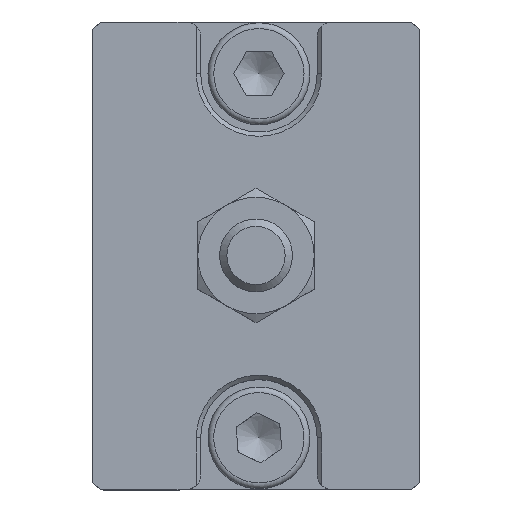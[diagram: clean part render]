
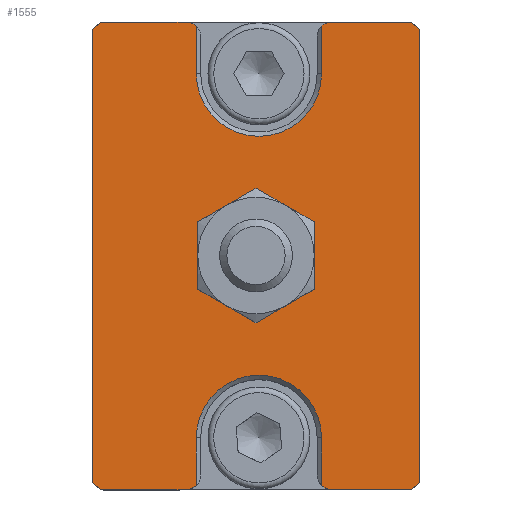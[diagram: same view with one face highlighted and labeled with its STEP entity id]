
A CAD part, top view. The second image highlights one B-rep face of the part: STEP entity #1555.
In plain terms, the highlighted planar face has unit normal (0, 0, 1).
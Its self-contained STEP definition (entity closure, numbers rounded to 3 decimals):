
#917=CARTESIAN_POINT('',(10.417,15.55,12.));
#918=VERTEX_POINT('',#917);
#927=CARTESIAN_POINT('',(10.417,-15.55,12.));
#928=VERTEX_POINT('',#927);
#929=CARTESIAN_POINT('',(10.417,15.55,12.));
#930=DIRECTION('',(0.0,-1.0,0.0));
#931=VECTOR('',#930,31.1);
#932=LINE('',#929,#931);
#933=EDGE_CURVE('',#918,#928,#932,.T.);
#1244=CARTESIAN_POINT('',(-11.483,-16.05,12.));
#1245=VERTEX_POINT('',#1244);
#1246=CARTESIAN_POINT('',(-11.983,-15.55,12.));
#1247=VERTEX_POINT('',#1246);
#1248=CARTESIAN_POINT('',(-11.483,-16.05,12.));
#1249=DIRECTION('',(-0.707,0.707,0.0));
#1250=VECTOR('',#1249,0.707);
#1251=LINE('',#1248,#1250);
#1252=EDGE_CURVE('',#1245,#1247,#1251,.T.);
#1372=CARTESIAN_POINT('',(-11.983,15.55,12.));
#1373=VERTEX_POINT('',#1372);
#1374=CARTESIAN_POINT('',(-11.983,-15.55,12.));
#1375=DIRECTION('',(0.0,1.0,0.0));
#1376=VECTOR('',#1375,31.1);
#1377=LINE('',#1374,#1376);
#1378=EDGE_CURVE('',#1247,#1373,#1377,.T.);
#1396=CARTESIAN_POINT('',(-0.783,0.,12.));
#1397=DIRECTION('',(0.0,0.0,1.0));
#1398=DIRECTION('',(1.0,0.0,0.0));
#1399=AXIS2_PLACEMENT_3D('',#1396,#1397,#1398);
#1400=PLANE('',#1399);
#1401=ORIENTED_EDGE('',*,*,#1252,.F.);
#1402=CARTESIAN_POINT('',(-5.583,-16.05,12.));
#1403=VERTEX_POINT('',#1402);
#1404=CARTESIAN_POINT('',(-5.583,-16.05,12.));
#1405=DIRECTION('',(-1.0,0.0,0.0));
#1406=VECTOR('',#1405,5.9);
#1407=LINE('',#1404,#1406);
#1408=EDGE_CURVE('',#1403,#1245,#1407,.T.);
#1409=ORIENTED_EDGE('',*,*,#1408,.F.);
#1410=CARTESIAN_POINT('',(-4.883,-15.764,12.));
#1411=VERTEX_POINT('',#1410);
#1412=CARTESIAN_POINT('',(-5.583,-15.05,12.));
#1413=DIRECTION('',(0.0,0.0,-1.0));
#1414=DIRECTION('',(0.707,-0.707,0.0));
#1415=AXIS2_PLACEMENT_3D('',#1412,#1413,#1414);
#1416=CIRCLE('',#1415,1.0);
#1417=EDGE_CURVE('',#1411,#1403,#1416,.T.);
#1418=ORIENTED_EDGE('',*,*,#1417,.F.);
#1419=CARTESIAN_POINT('',(-4.883,-12.5,12.));
#1420=VERTEX_POINT('',#1419);
#1421=CARTESIAN_POINT('',(-4.883,-12.5,12.));
#1422=DIRECTION('',(0.0,-1.0,0.0));
#1423=VECTOR('',#1422,3.264);
#1424=LINE('',#1421,#1423);
#1425=EDGE_CURVE('',#1420,#1411,#1424,.T.);
#1426=ORIENTED_EDGE('',*,*,#1425,.F.);
#1427=CARTESIAN_POINT('',(3.717,-12.5,12.));
#1428=VERTEX_POINT('',#1427);
#1429=CARTESIAN_POINT('',(-0.583,-12.5,12.));
#1430=DIRECTION('',(0.0,0.0,1.0));
#1431=DIRECTION('',(1.0,0.0,0.0));
#1432=AXIS2_PLACEMENT_3D('',#1429,#1430,#1431);
#1433=CIRCLE('',#1432,4.3);
#1434=EDGE_CURVE('',#1428,#1420,#1433,.T.);
#1435=ORIENTED_EDGE('',*,*,#1434,.F.);
#1436=CARTESIAN_POINT('',(3.717,-15.764,12.));
#1437=VERTEX_POINT('',#1436);
#1438=CARTESIAN_POINT('',(3.717,-15.764,12.));
#1439=DIRECTION('',(0.0,1.0,0.0));
#1440=VECTOR('',#1439,3.264);
#1441=LINE('',#1438,#1440);
#1442=EDGE_CURVE('',#1437,#1428,#1441,.T.);
#1443=ORIENTED_EDGE('',*,*,#1442,.F.);
#1444=CARTESIAN_POINT('',(4.417,-16.05,12.));
#1445=VERTEX_POINT('',#1444);
#1446=CARTESIAN_POINT('',(4.417,-15.05,12.));
#1447=DIRECTION('',(0.0,0.0,-1.0));
#1448=DIRECTION('',(-0.707,-0.707,0.0));
#1449=AXIS2_PLACEMENT_3D('',#1446,#1447,#1448);
#1450=CIRCLE('',#1449,1.);
#1451=EDGE_CURVE('',#1445,#1437,#1450,.T.);
#1452=ORIENTED_EDGE('',*,*,#1451,.F.);
#1453=CARTESIAN_POINT('',(9.917,-16.05,12.));
#1454=VERTEX_POINT('',#1453);
#1455=CARTESIAN_POINT('',(9.917,-16.05,12.));
#1456=DIRECTION('',(-1.0,0.0,0.0));
#1457=VECTOR('',#1456,5.5);
#1458=LINE('',#1455,#1457);
#1459=EDGE_CURVE('',#1454,#1445,#1458,.T.);
#1460=ORIENTED_EDGE('',*,*,#1459,.F.);
#1461=CARTESIAN_POINT('',(10.417,-15.55,12.));
#1462=DIRECTION('',(-0.707,-0.707,0.0));
#1463=VECTOR('',#1462,0.707);
#1464=LINE('',#1461,#1463);
#1465=EDGE_CURVE('',#928,#1454,#1464,.T.);
#1466=ORIENTED_EDGE('',*,*,#1465,.F.);
#1467=ORIENTED_EDGE('',*,*,#933,.F.);
#1468=CARTESIAN_POINT('',(9.917,16.05,12.));
#1469=VERTEX_POINT('',#1468);
#1470=CARTESIAN_POINT('',(9.917,16.05,12.));
#1471=DIRECTION('',(0.707,-0.707,0.0));
#1472=VECTOR('',#1471,0.707);
#1473=LINE('',#1470,#1472);
#1474=EDGE_CURVE('',#1469,#918,#1473,.T.);
#1475=ORIENTED_EDGE('',*,*,#1474,.F.);
#1476=CARTESIAN_POINT('',(4.417,16.05,12.));
#1477=VERTEX_POINT('',#1476);
#1478=CARTESIAN_POINT('',(4.417,16.05,12.));
#1479=DIRECTION('',(1.0,0.0,0.0));
#1480=VECTOR('',#1479,5.5);
#1481=LINE('',#1478,#1480);
#1482=EDGE_CURVE('',#1477,#1469,#1481,.T.);
#1483=ORIENTED_EDGE('',*,*,#1482,.F.);
#1484=CARTESIAN_POINT('',(3.717,15.764,12.));
#1485=VERTEX_POINT('',#1484);
#1486=CARTESIAN_POINT('',(4.417,15.05,12.));
#1487=DIRECTION('',(0.0,0.0,-1.0));
#1488=DIRECTION('',(-0.707,0.707,0.0));
#1489=AXIS2_PLACEMENT_3D('',#1486,#1487,#1488);
#1490=CIRCLE('',#1489,1.);
#1491=EDGE_CURVE('',#1485,#1477,#1490,.T.);
#1492=ORIENTED_EDGE('',*,*,#1491,.F.);
#1493=CARTESIAN_POINT('',(3.717,12.5,12.));
#1494=VERTEX_POINT('',#1493);
#1495=CARTESIAN_POINT('',(3.717,12.5,12.));
#1496=DIRECTION('',(0.0,1.0,0.0));
#1497=VECTOR('',#1496,3.264);
#1498=LINE('',#1495,#1497);
#1499=EDGE_CURVE('',#1494,#1485,#1498,.T.);
#1500=ORIENTED_EDGE('',*,*,#1499,.F.);
#1501=CARTESIAN_POINT('',(-4.883,12.5,12.));
#1502=VERTEX_POINT('',#1501);
#1503=CARTESIAN_POINT('',(-0.583,12.5,12.));
#1504=DIRECTION('',(0.0,0.0,1.0));
#1505=DIRECTION('',(-1.0,0.0,0.0));
#1506=AXIS2_PLACEMENT_3D('',#1503,#1504,#1505);
#1507=CIRCLE('',#1506,4.3);
#1508=EDGE_CURVE('',#1502,#1494,#1507,.T.);
#1509=ORIENTED_EDGE('',*,*,#1508,.F.);
#1510=CARTESIAN_POINT('',(-4.883,15.764,12.));
#1511=VERTEX_POINT('',#1510);
#1512=CARTESIAN_POINT('',(-4.883,15.764,12.));
#1513=DIRECTION('',(0.0,-1.0,0.0));
#1514=VECTOR('',#1513,3.264);
#1515=LINE('',#1512,#1514);
#1516=EDGE_CURVE('',#1511,#1502,#1515,.T.);
#1517=ORIENTED_EDGE('',*,*,#1516,.F.);
#1518=CARTESIAN_POINT('',(-5.583,16.05,12.));
#1519=VERTEX_POINT('',#1518);
#1520=CARTESIAN_POINT('',(-5.583,15.05,12.));
#1521=DIRECTION('',(0.0,0.0,-1.));
#1522=DIRECTION('',(0.707,0.707,0.0));
#1523=AXIS2_PLACEMENT_3D('',#1520,#1521,#1522);
#1524=CIRCLE('',#1523,1.);
#1525=EDGE_CURVE('',#1519,#1511,#1524,.T.);
#1526=ORIENTED_EDGE('',*,*,#1525,.F.);
#1527=CARTESIAN_POINT('',(-11.483,16.05,12.));
#1528=VERTEX_POINT('',#1527);
#1529=CARTESIAN_POINT('',(-11.483,16.05,12.));
#1530=DIRECTION('',(1.0,0.0,0.0));
#1531=VECTOR('',#1530,5.9);
#1532=LINE('',#1529,#1531);
#1533=EDGE_CURVE('',#1528,#1519,#1532,.T.);
#1534=ORIENTED_EDGE('',*,*,#1533,.F.);
#1535=CARTESIAN_POINT('',(-11.983,15.55,12.));
#1536=DIRECTION('',(0.707,0.707,0.0));
#1537=VECTOR('',#1536,0.707);
#1538=LINE('',#1535,#1537);
#1539=EDGE_CURVE('',#1373,#1528,#1538,.T.);
#1540=ORIENTED_EDGE('',*,*,#1539,.F.);
#1541=ORIENTED_EDGE('',*,*,#1378,.F.);
#1542=EDGE_LOOP('',(#1401,#1409,#1418,#1426,#1435,#1443,#1452,#1460,#1466,#1467,#1475,#1483,#1492,#1500,#1509,#1517,#1526,#1534,#1540,#1541));
#1543=FACE_OUTER_BOUND('',#1542,.T.);
#1544=CARTESIAN_POINT('',(-0.783,3.,12.));
#1545=VERTEX_POINT('',#1544);
#1546=CARTESIAN_POINT('',(-0.783,0.,12.));
#1547=DIRECTION('',(0.0,0.0,-1.0));
#1548=DIRECTION('',(0.0,1.0,0.0));
#1549=AXIS2_PLACEMENT_3D('',#1546,#1547,#1548);
#1550=CIRCLE('',#1549,3.);
#1551=EDGE_CURVE('',#1545,#1545,#1550,.T.);
#1552=ORIENTED_EDGE('',*,*,#1551,.T.);
#1553=EDGE_LOOP('',(#1552));
#1554=FACE_BOUND('',#1553,.T.);
#1555=ADVANCED_FACE('',(#1543,#1554),#1400,.T.);
